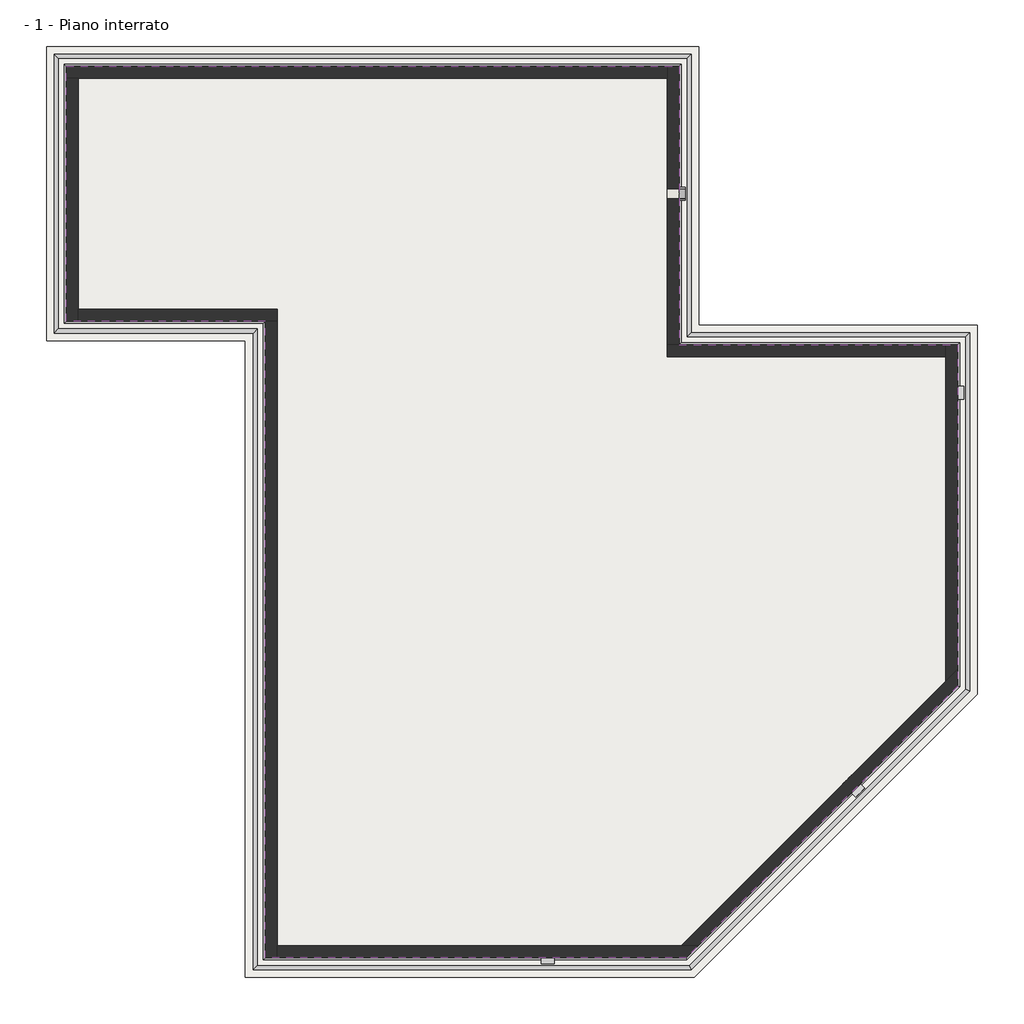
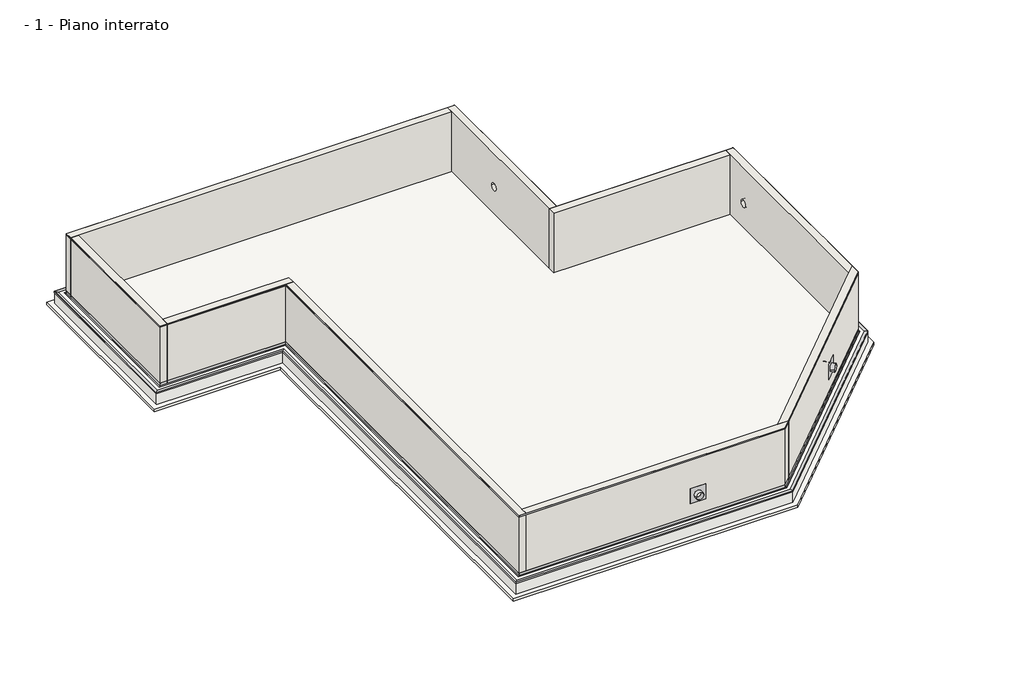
# One storey: 9 walls, 7 proxies, 2 slabs.
"""IFC4 building model written with IfcOpenShell, lengths in millimetres."""

from ifc_helpers import new_model, si_unit, frame, origin, place, context, project, spatial, polyline, circle_curve, outline, extrude, faceted_brep, transform, mapped, element, save
from ifc_brep_helpers import plane_surface, revolved_surface, advanced_brep
from components import generic_models_91e2fdae

model = new_model("IFC4")

# Units and contexts
model_context = context("Model", 3, world=origin())
ifc_project = project(units=[si_unit("LENGTHUNIT", "METRE", prefix="MILLI")], contexts=[model_context])

# Site, building, storey
site = spatial("IfcSite", under=ifc_project)
building = spatial("IfcBuilding", under=site)
storey = spatial("IfcBuildingStorey", under=building, Name="- 1 - Piano interrato", Elevation=-2500.0)

# Proxies
placement = place(None, origin())
element("IfcBuildingElementProxy", 1, Name="AMPHIBIA CORNER 270° VOLTECO", ObjectType="AMPHIBIA CORNER 270° VOLTECO", at=placement, inside=storey, context=model_context, shape_type="Brep", body=[
    faceted_brep([(9823.1031791, -5668.21191, -2499.0), (9773.1031791, -5647.5012319, -2499.0), (9773.1031791, -5647.5012319, -2399.0), (9772.1031791, -5647.0870183, -2399.0), (9772.1031791, -5647.0870183, -2500.0), (9823.1031791, -5668.21191, -2500.0), (9823.1031791, 2979.648913, -2499.0), (9823.1031791, 2979.648913, -2500.0), (9772.1031791, 2928.648913, -2500.0), (9772.1031791, 2928.648913, -2399.0), (9773.1031791, 2929.648913, -2399.0), (9773.1031791, 2929.648913, -2499.0)], [[[0, 1, 2, 3, 4, 5]], [[6, 7, 8, 9, 10, 11]], [[1, 0, 6, 11]], [[2, 1, 11, 10]], [[3, 2, 10, 9]], [[4, 3, 9, 8]], [[5, 4, 8, 7]], [[0, 5, 7, 6]]]),
    faceted_brep([(9823.1031791, 2979.648913, -2499.0), (9773.1031791, 2929.648913, -2499.0), (9773.1031791, 2929.648913, -2399.0), (9772.1031791, 2928.648913, -2399.0), (9772.1031791, 2928.648913, -2500.0), (9823.1031791, 2979.648913, -2500.0), (2823.1031791, 2979.648913, -2499.0), (2823.1031791, 2979.648913, -2500.0), (2772.1031791, 2928.648913, -2500.0), (2772.1031791, 2928.648913, -2399.0), (2773.1031791, 2929.648913, -2399.0), (2773.1031791, 2929.648913, -2499.0)], [[[0, 1, 2, 3, 4, 5]], [[6, 7, 8, 9, 10, 11]], [[1, 0, 6, 11]], [[2, 1, 11, 10]], [[3, 2, 10, 9]], [[4, 3, 9, 8]], [[5, 4, 8, 7]], [[0, 5, 7, 6]]]),
    faceted_brep([(2823.1031791, 2979.648913, -2499.0), (2773.1031791, 2929.648913, -2499.0), (2773.1031791, 2929.648913, -2399.0), (2772.1031791, 2928.648913, -2399.0), (2772.1031791, 2928.648913, -2500.0), (2823.1031791, 2979.648913, -2500.0), (2823.1031791, 9979.648913, -2499.0), (2823.1031791, 9979.648913, -2500.0), (2772.1031791, 9928.648913, -2500.0), (2772.1031791, 9928.648913, -2399.0), (2773.1031791, 9929.648913, -2399.0), (2773.1031791, 9929.648913, -2499.0)], [[[0, 1, 2, 3, 4, 5]], [[6, 7, 8, 9, 10, 11]], [[1, 0, 6, 11]], [[2, 1, 11, 10]], [[3, 2, 10, 9]], [[4, 3, 9, 8]], [[5, 4, 8, 7]], [[0, 5, 7, 6]]]),
    faceted_brep([(2823.1031791, 9979.648913, -2499.0), (2773.1031791, 9929.648913, -2499.0), (2773.1031791, 9929.648913, -2399.0), (2772.1031791, 9928.648913, -2399.0), (2772.1031791, 9928.648913, -2500.0), (2823.1031791, 9979.648913, -2500.0), (-12678.8968209, 9979.648913, -2499.0), (-12678.8968209, 9979.648913, -2500.0), (-12627.8968209, 9928.648913, -2500.0), (-12627.8968209, 9928.648913, -2399.0), (-12628.8968209, 9929.648913, -2399.0), (-12628.8968209, 9929.648913, -2499.0)], [[[0, 1, 2, 3, 4, 5]], [[6, 7, 8, 9, 10, 11]], [[1, 0, 6, 11]], [[2, 1, 11, 10]], [[3, 2, 10, 9]], [[4, 3, 9, 8]], [[5, 4, 8, 7]], [[0, 5, 7, 6]]]),
    faceted_brep([(-12678.8968209, 9979.648913, -2499.0), (-12628.8968209, 9929.648913, -2499.0), (-12628.8968209, 9929.648913, -2399.0), (-12627.8968209, 9928.648913, -2399.0), (-12627.8968209, 9928.648913, -2500.0), (-12678.8968209, 9979.648913, -2500.0), (-12678.8968209, 3477.648913, -2499.0), (-12678.8968209, 3477.648913, -2500.0), (-12627.8968209, 3528.648913, -2500.0), (-12627.8968209, 3528.648913, -2399.0), (-12628.8968209, 3527.648913, -2399.0), (-12628.8968209, 3527.648913, -2499.0)], [[[0, 1, 2, 3, 4, 5]], [[6, 7, 8, 9, 10, 11]], [[1, 0, 6, 11]], [[2, 1, 11, 10]], [[3, 2, 10, 9]], [[4, 3, 9, 8]], [[5, 4, 8, 7]], [[0, 5, 7, 6]]]),
    faceted_brep([(-12678.8968209, 3477.648913, -2499.0), (-12628.8968209, 3527.648913, -2499.0), (-12628.8968209, 3527.648913, -2399.0), (-12627.8968209, 3528.648913, -2399.0), (-12627.8968209, 3528.648913, -2500.0), (-12678.8968209, 3477.648913, -2500.0), (-7678.8968209, 3477.648913, -2499.0), (-7678.8968209, 3477.648913, -2500.0), (-7627.8968209, 3528.648913, -2500.0), (-7627.8968209, 3528.648913, -2399.0), (-7628.8968209, 3527.648913, -2399.0), (-7628.8968209, 3527.648913, -2499.0)], [[[0, 1, 2, 3, 4, 5]], [[6, 7, 8, 9, 10, 11]], [[1, 0, 6, 11]], [[2, 1, 11, 10]], [[3, 2, 10, 9]], [[4, 3, 9, 8]], [[5, 4, 8, 7]], [[0, 5, 7, 6]]]),
    faceted_brep([(-7678.8968209, 3477.648913, -2499.0), (-7628.8968209, 3527.648913, -2499.0), (-7628.8968209, 3527.648913, -2399.0), (-7627.8968209, 3528.648913, -2399.0), (-7627.8968209, 3528.648913, -2500.0), (-7678.8968209, 3477.648913, -2500.0), (-7678.8968209, -12522.351087, -2499.0), (-7678.8968209, -12522.351087, -2500.0), (-7627.8968209, -12471.351087, -2500.0), (-7627.8968209, -12471.351087, -2399.0), (-7628.8968209, -12472.351087, -2399.0), (-7628.8968209, -12472.351087, -2499.0)], [[[0, 1, 2, 3, 4, 5]], [[6, 7, 8, 9, 10, 11]], [[1, 0, 6, 11]], [[2, 1, 11, 10]], [[3, 2, 10, 9]], [[4, 3, 9, 8]], [[5, 4, 8, 7]], [[0, 5, 7, 6]]]),
    faceted_brep([(-7678.8968209, -12522.351087, -2499.0), (-7628.8968209, -12472.351087, -2499.0), (-7628.8968209, -12472.351087, -2399.0), (-7627.8968209, -12471.351087, -2399.0), (-7627.8968209, -12471.351087, -2500.0), (-7678.8968209, -12522.351087, -2500.0), (2968.9640021, -12522.351087, -2499.0), (2968.9640021, -12522.351087, -2500.0), (2947.8391104, -12471.351087, -2500.0), (2947.8391104, -12471.351087, -2399.0), (2948.253324, -12472.351087, -2399.0), (2948.253324, -12472.351087, -2499.0)], [[[0, 1, 2, 3, 4, 5]], [[6, 7, 8, 9, 10, 11]], [[1, 0, 6, 11]], [[2, 1, 11, 10]], [[3, 2, 10, 9]], [[4, 3, 9, 8]], [[5, 4, 8, 7]], [[0, 5, 7, 6]]]),
    faceted_brep([(2968.9640021, -12522.351087, -2499.0), (2948.253324, -12472.351087, -2499.0), (2948.253324, -12472.351087, -2399.0), (2947.8391104, -12471.351087, -2399.0), (2947.8391104, -12471.351087, -2500.0), (2968.9640021, -12522.351087, -2500.0), (9823.1031791, -5668.21191, -2499.0), (9823.1031791, -5668.21191, -2500.0), (9772.1031791, -5647.0870183, -2500.0), (9772.1031791, -5647.0870183, -2399.0), (9773.1031791, -5647.5012319, -2399.0), (9773.1031791, -5647.5012319, -2499.0)], [[[0, 1, 2, 3, 4, 5]], [[6, 7, 8, 9, 10, 11]], [[1, 0, 6, 11]], [[2, 1, 11, 10]], [[3, 2, 10, 9]], [[4, 3, 9, 8]], [[5, 4, 8, 7]], [[0, 5, 7, 6]]]),
])
element("IfcBuildingElementProxy", 2, Name="AMPHIBIA CORNER 90° VOLTECO", ObjectType="AMPHIBIA CORNER 90° VOLTECO", at=placement, inside=storey, context=model_context, shape_type="Brep", body=[
    faceted_brep([(-12928.8968209, 3227.648913, -2550.0), (-12927.8968209, 3228.648913, -2550.0), (-7927.8968209, 3228.648913, -2550.0), (-7928.8968209, 3227.648913, -2550.0), (-12928.8968209, 3227.648913, -2499.0), (-7928.8968209, 3227.648913, -2499.0), (-12827.8968209, 3328.648913, -2499.0), (-7827.8968209, 3328.648913, -2499.0), (-12827.8968209, 3328.648913, -2500.0), (-7827.8968209, 3328.648913, -2500.0), (-12927.8968209, 3228.648913, -2500.0), (-7927.8968209, 3228.648913, -2500.0), (-7928.8968209, -12772.351087, -2550.0), (-7927.8968209, -12771.351087, -2550.0), (3072.1031791, -12771.351087, -2550.0), (3072.5173927, -12772.351087, -2550.0), (-7928.8968209, -12772.351087, -2499.0), (3072.5173927, -12772.351087, -2499.0), (-7827.8968209, -12671.351087, -2499.0), (3030.6818229, -12671.351087, -2499.0), (-7827.8968209, -12671.351087, -2500.0), (3030.6818229, -12671.351087, -2500.0), (-7927.8968209, -12771.351087, -2500.0), (3072.1031791, -12771.351087, -2500.0), (10072.1031791, -5771.351087, -2550.0), (10073.1031791, -5771.7653006, -2550.0), (10073.1031791, -5771.7653006, -2499.0), (9972.1031791, -5729.9297308, -2499.0), (9972.1031791, -5729.9297308, -2500.0), (10072.1031791, -5771.351087, -2500.0), (10072.1031791, 3228.648913, -2550.0), (10073.1031791, 3229.648913, -2550.0), (10073.1031791, 3229.648913, -2499.0), (9972.1031791, 3128.648913, -2499.0), (9972.1031791, 3128.648913, -2500.0), (10072.1031791, 3228.648913, -2500.0), (3072.1031791, 3228.648913, -2550.0), (3073.1031791, 3229.648913, -2550.0), (3073.1031791, 3229.648913, -2499.0), (2972.1031791, 3128.648913, -2499.0), (2972.1031791, 3128.648913, -2500.0), (3072.1031791, 3228.648913, -2500.0), (3072.1031791, 10228.648913, -2550.0), (3073.1031791, 10229.648913, -2550.0), (3073.1031791, 10229.648913, -2499.0), (2972.1031791, 10128.648913, -2499.0), (2972.1031791, 10128.648913, -2500.0), (3072.1031791, 10228.648913, -2500.0), (-12927.8968209, 10228.648913, -2550.0), (-12928.8968209, 10229.648913, -2550.0), (-12928.8968209, 10229.648913, -2499.0), (-12827.8968209, 10128.648913, -2499.0), (-12827.8968209, 10128.648913, -2500.0), (-12927.8968209, 10228.648913, -2500.0)], [[[0, 1, 2, 3]], [[4, 0, 3, 5]], [[6, 4, 5, 7]], [[8, 6, 7, 9]], [[10, 8, 9, 11]], [[1, 10, 11, 2]], [[12, 13, 14, 15]], [[16, 12, 15, 17]], [[18, 16, 17, 19]], [[20, 18, 19, 21]], [[22, 20, 21, 23]], [[13, 22, 23, 14]], [[15, 14, 24, 25]], [[17, 15, 25, 26]], [[19, 17, 26, 27]], [[21, 19, 27, 28]], [[23, 21, 28, 29]], [[14, 23, 29, 24]], [[25, 24, 30, 31]], [[26, 25, 31, 32]], [[27, 26, 32, 33]], [[28, 27, 33, 34]], [[29, 28, 34, 35]], [[24, 29, 35, 30]], [[31, 30, 36, 37]], [[32, 31, 37, 38]], [[33, 32, 38, 39]], [[34, 33, 39, 40]], [[35, 34, 40, 41]], [[30, 35, 41, 36]], [[37, 36, 42, 43]], [[38, 37, 43, 44]], [[39, 38, 44, 45]], [[40, 39, 45, 46]], [[41, 40, 46, 47]], [[36, 41, 47, 42]], [[43, 42, 48, 49]], [[44, 43, 49, 50]], [[45, 44, 50, 51]], [[46, 45, 51, 52]], [[47, 46, 52, 53]], [[42, 47, 53, 48]], [[1, 0, 49, 48]], [[0, 4, 50, 49]], [[4, 6, 51, 50]], [[6, 8, 52, 51]], [[8, 10, 53, 52]], [[10, 1, 48, 53]], [[13, 12, 3, 2]], [[12, 16, 5, 3]], [[16, 18, 7, 5]], [[18, 20, 9, 7]], [[20, 22, 11, 9]], [[22, 13, 2, 11]]]),
])
element("IfcBuildingElementProxy", 3, Name="AMPHIBIA VOLTECO PRESSURE LINE", ObjectType="AMPHIBIA VOLTECO PRESSURE LINE", at=placement, inside=storey, context=model_context, shape_type="SweptSolid", body=[
    extrude(outline(polyline([(-12628.8968209, 9929.648913), (-12627.8968209, 9928.648913), (-12627.8968209, 3528.648913), (-12628.8968209, 3527.648913), (-12628.8968209, 9929.648913)])), frame((0.0, 0.0, -50.0), z_axis=(0.0, 0.0, 1.0), x_axis=(1.0, 0.0, 0.0)), (0.0, 0.0, 1.0), 50.0),
    extrude(outline(polyline([(-12628.8968209, 3527.648913), (-12627.8968209, 3528.648913), (-7627.8968209, 3528.648913), (-7628.8968209, 3527.648913), (-12628.8968209, 3527.648913)])), frame((0.0, 0.0, -50.0), z_axis=(0.0, 0.0, 1.0), x_axis=(1.0, 0.0, 0.0)), (0.0, 0.0, 1.0), 50.0),
    extrude(outline(polyline([(-7628.8968209, 3527.648913), (-7627.8968209, 3528.648913), (-7627.8968209, -12471.351087), (-7628.8968209, -12472.351087), (-7628.8968209, 3527.648913)])), frame((0.0, 0.0, -50.0), z_axis=(0.0, 0.0, 1.0), x_axis=(1.0, 0.0, 0.0)), (0.0, 0.0, 1.0), 50.0),
    extrude(outline(polyline([(-7628.8968209, -12472.351087), (-7627.8968209, -12471.351087), (2947.8391104, -12471.351087), (2948.253324, -12472.351087), (-7628.8968209, -12472.351087)])), frame((0.0, 0.0, -50.0), z_axis=(0.0, 0.0, 1.0), x_axis=(1.0, 0.0, 0.0)), (0.0, 0.0, 1.0), 50.0),
    extrude(outline(polyline([(2948.253324, -12472.351087), (2947.8391104, -12471.351087), (9772.1031791, -5647.0870183), (9773.1031791, -5647.5012319), (2948.253324, -12472.351087)])), frame((0.0, 0.0, -50.0), z_axis=(0.0, 0.0, 1.0), x_axis=(1.0, 0.0, 0.0)), (0.0, 0.0, 1.0), 50.0),
    extrude(outline(polyline([(9773.1031791, -5647.5012319), (9772.1031791, -5647.0870183), (9772.1031791, 2928.648913), (9773.1031791, 2929.648913), (9773.1031791, -5647.5012319)])), frame((0.0, 0.0, -50.0), z_axis=(0.0, 0.0, 1.0), x_axis=(1.0, 0.0, 0.0)), (0.0, 0.0, 1.0), 50.0),
    extrude(outline(polyline([(9773.1031791, 2929.648913), (9772.1031791, 2928.648913), (2772.1031791, 2928.648913), (2773.1031791, 2929.648913), (9773.1031791, 2929.648913)])), frame((0.0, 0.0, -50.0), z_axis=(0.0, 0.0, 1.0), x_axis=(1.0, 0.0, 0.0)), (0.0, 0.0, 1.0), 50.0),
    extrude(outline(polyline([(2773.1031791, 2929.648913), (2772.1031791, 2928.648913), (2772.1031791, 9928.648913), (2773.1031791, 9929.648913), (2773.1031791, 2929.648913)])), frame((0.0, 0.0, -50.0), z_axis=(0.0, 0.0, 1.0), x_axis=(1.0, 0.0, 0.0)), (0.0, 0.0, 1.0), 50.0),
    extrude(outline(polyline([(2773.1031791, 9929.648913), (2772.1031791, 9928.648913), (-12627.8968209, 9928.648913), (-12628.8968209, 9929.648913), (2773.1031791, 9929.648913)])), frame((0.0, 0.0, -50.0), z_axis=(0.0, 0.0, 1.0), x_axis=(1.0, 0.0, 0.0)), (0.0, 0.0, 1.0), 50.0),
])
generic_models_shape = generic_models_91e2fdae(model_context)
element("IfcBuildingElementProxy", 4, Name="ITA-VOLTECO Amphibia Tubo : ITA-VOLTECO Amphibia Tubo", ObjectType="ITA-VOLTECO Amphibia Tubo : ITA-VOLTECO Amphibia Tubo", at=placement, inside=storey, context=model_context, shape_type="MappedRepresentation", body=[
    mapped(generic_models_shape, transform((7209.3614793, -8209.8287181, -1538.2392185), x_axis=(0.7071067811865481, 0.707106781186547, 0.0), y_axis=(0.0, 0.0, 1.0000000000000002), z_axis=(0.707106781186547, -0.7071067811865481, 0.0))),
])
element("IfcBuildingElementProxy", 5, Name="ITA-VOLTECO Amphibia Tubo : ITA-VOLTECO Amphibia Tubo", ObjectType="ITA-VOLTECO Amphibia Tubo : ITA-VOLTECO Amphibia Tubo", at=placement, inside=storey, context=model_context, shape_type="MappedRepresentation", body=[
    mapped(generic_models_shape, transform((9772.1031791, 1728.648913, -1496.7086469), x_axis=(0.0, 1.0, 0.0), y_axis=(0.0, 0.0, 1.0), z_axis=(1.0, 0.0, 0.0))),
])
element("IfcBuildingElementProxy", 6, Name="ITA-VOLTECO Amphibia Tubo : ITA-VOLTECO Amphibia Tubo", ObjectType="ITA-VOLTECO Amphibia Tubo : ITA-VOLTECO Amphibia Tubo", at=placement, inside=storey, context=model_context, shape_type="MappedRepresentation", body=[
    mapped(generic_models_shape, transform((2772.1031791, 6728.648913, -1383.5016152), x_axis=(0.0, 1.0, 0.0), y_axis=(0.0, 0.0, 1.0), z_axis=(1.0, 0.0, 0.0))),
])
element("IfcBuildingElementProxy", 7, Name="ITA-VOLTECO Amphibia Tubo : ITA-VOLTECO Amphibia Tubo", ObjectType="ITA-VOLTECO Amphibia Tubo : ITA-VOLTECO Amphibia Tubo", at=placement, inside=storey, context=model_context, shape_type="MappedRepresentation", body=[
    mapped(generic_models_shape, transform((-527.8968209, -12471.351087, -1549.7430028), x_axis=(1.0, 0.0, 0.0), y_axis=(0.0, 0.0, 1.0), z_axis=(0.0, -1.0, 0.0))),
])

# Slabs
element("IfcSlab", 8, ObjectType="Magrone - 10 cm", at=placement, inside=storey, context=model_context, shape_type="SweptSolid", body=[
    extrude(outline(polyline([(3272.1031791, 3428.648913), (10272.1031791, 3428.648913), (10272.1031791, -5854.1937995), (3154.9458916, -12971.351087), (-8127.8968209, -12971.351087), (-8127.8968209, 3028.648913), (-13127.8968209, 3028.648913), (-13127.8968209, 10428.648913), (3272.1031791, 10428.648913), (3272.1031791, 3428.648913)])), frame((0.0, 0.0, -3100.0), z_axis=(0.0, 0.0, 1.0), x_axis=(1.0, 0.0, 0.0)), (0.0, 0.0, 1.0), 100.0),
])
element("IfcSlab", 9, ObjectType="Platea - 50 cm", at=placement, inside=storey, context=model_context, shape_type="Brep", body=[
    faceted_brep([(3072.1031791, 10228.648913, -3000.0), (3072.1031791, 3228.648913, -3000.0), (10072.1031791, 3228.648913, -3000.0), (10072.1031791, -5771.351087, -3000.0), (3072.1031791, -12771.351087, -3000.0), (-7927.8968209, -12771.351087, -3000.0), (-7927.8968209, 3228.648913, -3000.0), (-12927.8968209, 3228.648913, -3000.0), (-12927.8968209, 10228.648913, -3000.0), (3072.1031791, 10228.648913, -2500.0), (-12927.8968209, 10228.648913, -2500.0), (-12927.8968209, 3228.648913, -2500.0), (-7927.8968209, 3228.648913, -2500.0), (-7927.8968209, -12771.351087, -2500.0), (3072.1031791, -12771.351087, -2500.0), (10072.1031791, -5771.351087, -2500.0), (10072.1031791, 3228.648913, -2500.0), (3072.1031791, 3228.648913, -2500.0), (3072.1031791, 10228.648913, -2550.0), (3072.1031791, 3228.648913, -2550.0), (10072.1031791, 3228.648913, -2550.0), (10072.1031791, -5771.351087, -2550.0), (3072.1031791, -12771.351087, -2550.0), (-7927.8968209, -12771.351087, -2550.0), (-7927.8968209, 3228.648913, -2550.0), (-12927.8968209, 3228.648913, -2550.0), (-12927.8968209, 10228.648913, -2550.0)], [[[0, 1, 2, 3, 4, 5, 6, 7, 8]], [[9, 10, 11, 12, 13, 14, 15, 16, 17]], [[1, 0, 18, 9, 17, 19]], [[2, 1, 19, 17, 16, 20]], [[3, 2, 20, 16, 15, 21]], [[4, 3, 21, 15, 14, 22]], [[5, 4, 22, 14, 13, 23]], [[6, 5, 23, 13, 12, 24]], [[7, 6, 24, 12, 11, 25]], [[8, 7, 25, 11, 10, 26]], [[0, 8, 26, 10, 9, 18]]]),
])

# Walls
element("IfcWall", 10, ObjectType="Parete in c.a.uori terra - 30 cm", at=placement, inside=storey, context=model_context, shape_type="Brep", body=[
    faceted_brep([(2472.1031791, 9928.648913, -2500.0), (-12627.8968209, 9928.648913, -2500.0), (-12627.8968209, 9928.648913, -2399.0), (-12627.8968209, 9928.648913, -50.0), (-12627.8968209, 9928.648913, 0.0), (2472.1031791, 9928.648913, 0.0), (2472.1031791, 9928.648913, -50.0), (2472.1031791, 9928.648913, -2399.0), (-12627.8968209, 9628.648913, -2500.0), (-12327.8968209, 9628.648913, -2500.0), (2472.1031791, 9628.648913, -2500.0), (2472.1031791, 9628.648913, 0.0), (-12327.8968209, 9628.648913, 0.0), (-12627.8968209, 9628.648913, 0.0), (-12627.8968209, 9628.648913, -50.0), (-12627.8968209, 9628.648913, -2399.0)], [[[0, 1, 2, 3, 4, 5, 6, 7]], [[8, 9, 10, 11, 12, 13, 14, 15]], [[1, 0, 10, 9, 8]], [[5, 4, 13, 12, 11]], [[1, 8, 15, 14, 13, 4, 3, 2]], [[5, 11, 10, 0, 7, 6]]]),
])
element("IfcWall", 11, ObjectType="Parete in c.a.uori terra - 30 cm", at=placement, inside=storey, context=model_context, shape_type="Brep", body=[
    faceted_brep([(-12627.8968209, 9628.648913, -2500.0), (-12627.8968209, 3528.648913, -2500.0), (-12627.8968209, 3528.648913, -2399.0), (-12627.8968209, 3528.648913, -50.0), (-12627.8968209, 3528.648913, 0.0), (-12627.8968209, 9628.648913, 0.0), (-12627.8968209, 9628.648913, -50.0), (-12627.8968209, 9628.648913, -2399.0), (-12327.8968209, 3528.648913, -2500.0), (-12327.8968209, 3828.648913, -2500.0), (-12327.8968209, 9628.648913, -2500.0), (-12327.8968209, 9628.648913, 0.0), (-12327.8968209, 3828.648913, 0.0), (-12327.8968209, 3528.648913, 0.0), (-12327.8968209, 3528.648913, -50.0), (-12327.8968209, 3528.648913, -2399.0)], [[[0, 1, 2, 3, 4, 5, 6, 7]], [[8, 9, 10, 11, 12, 13, 14, 15]], [[1, 0, 10, 9, 8]], [[5, 4, 13, 12, 11]], [[1, 8, 15, 14, 13, 4, 3, 2]], [[5, 11, 10, 0, 7, 6]]]),
])
element("IfcWall", 12, ObjectType="Parete in c.a.uori terra - 30 cm", at=placement, inside=storey, context=model_context, shape_type="Brep", body=[
    faceted_brep([(-7327.8968209, 3528.648913, 0.0), (-7627.8968209, 3528.648913, 0.0), (-12327.8968209, 3528.648913, 0.0), (-12327.8968209, 3528.648913, -300.0), (-12327.8968209, 3528.648913, -350.0), (-12327.8968209, 3528.648913, -2399.0), (-12327.8968209, 3528.648913, -2500.0), (-7627.8968209, 3528.648913, -2500.0), (-7327.8968209, 3528.648913, -2500.0), (-7327.8968209, 3828.648913, -2500.0), (-12327.8968209, 3828.648913, -2500.0), (-12327.8968209, 3828.648913, 0.0), (-7327.8968209, 3828.648913, 0.0)], [[[0, 1, 2, 3, 4, 5, 6, 7, 8]], [[9, 10, 11, 12]], [[10, 9, 8, 7, 6]], [[2, 1, 0, 12, 11]], [[0, 8, 9, 12]], [[2, 11, 10, 6, 5, 4, 3]]]),
])
element("IfcWall", 13, ObjectType="Parete in c.a.uori terra - 30 cm", at=placement, inside=storey, context=model_context, shape_type="Brep", body=[
    faceted_brep([(-7627.8968209, 3528.648913, -2500.0), (-7627.8968209, -12471.351087, -2500.0), (-7627.8968209, -12471.351087, -2399.0), (-7627.8968209, -12471.351087, -50.0), (-7627.8968209, -12471.351087, 0.0), (-7627.8968209, 3528.648913, 0.0), (-7627.8968209, 3528.648913, -50.0), (-7627.8968209, 3528.648913, -2399.0), (-7327.8968209, -12471.351087, -2500.0), (-7327.8968209, -12171.351087, -2500.0), (-7327.8968209, 3528.648913, -2500.0), (-7327.8968209, 3528.648913, 0.0), (-7327.8968209, -12171.351087, 0.0), (-7327.8968209, -12471.351087, 0.0), (-7327.8968209, -12471.351087, -50.0), (-7327.8968209, -12471.351087, -2399.0)], [[[0, 1, 2, 3, 4, 5, 6, 7]], [[8, 9, 10, 11, 12, 13, 14, 15]], [[1, 0, 10, 9, 8]], [[5, 4, 13, 12, 11]], [[1, 8, 15, 14, 13, 4, 3, 2]], [[5, 11, 10, 0, 7, 6]]]),
])
element("IfcWall", 14, ObjectType="Parete in c.a.uori terra - 30 cm", at=placement, inside=storey, context=model_context, shape_type="AdvancedBrep", body=[
    advanced_brep(
    [(-7327.8968209, -12471.351087, -2500.0), (2947.8391104, -12471.351087, -2500.0), (2947.8391104, -12471.351087, -2399.0), (2947.8391104, -12471.351087, -50.0), (2947.8391104, -12471.351087, 0.0), (-7327.8968209, -12471.351087, 0.0), (-7327.8968209, -12471.351087, -50.0), (-7327.8968209, -12471.351087, -2399.0), (-377.8968209, -12471.351087, -1549.7430028), (-677.8968209, -12471.351087, -1549.7430028), (3247.8391104, -12171.351087, -2500.0), (2823.5750417, -12171.351087, -2500.0), (-7327.8968209, -12171.351087, -2500.0), (-7327.8968209, -12171.351087, 0.0), (2823.5750417, -12171.351087, 0.0), (3247.8391104, -12171.351087, 0.0), (3247.8391104, -12171.351087, -50.0), (3247.8391104, -12171.351087, -2399.0), (-677.8968209, -12171.351087, -1549.7430028), (-377.8968209, -12171.351087, -1549.7430028)],
    [
        (0, 1),
        (1, 2),
        (2, 3),
        (3, 4),
        (4, 5),
        (5, 6),
        (6, 7),
        (7, 0),
        (8, 9, circle_curve(frame((-527.8968209, -12471.351087, -1549.7430028), z_axis=(0.0, 1.0, 0.0), x_axis=(1.0, 0.0, 0.0)), 150.0)),
        (9, 8, circle_curve(frame((-527.8968209, -12471.351087, -1549.7430028), z_axis=(0.0, 1.0, 0.0), x_axis=(1.0, 0.0, 0.0)), 150.0)),
        (10, 11),
        (11, 12),
        (12, 13),
        (13, 14),
        (14, 15),
        (15, 16),
        (16, 17),
        (17, 10),
        (18, 19, circle_curve(frame((-527.8968209, -12171.351087, -1549.7430028), z_axis=(0.0, -1.0, 0.0), x_axis=(1.0, 0.0, 0.0)), 150.0)),
        (19, 18, circle_curve(frame((-527.8968209, -12171.351087, -1549.7430028), z_axis=(0.0, -1.0, 0.0), x_axis=(1.0, 0.0, 0.0)), 150.0)),
        (0, 12),
        (10, 1),
        (4, 15),
        (13, 5),
        (18, 9),
        (8, 19),
    ],
    [
        plane_surface(frame((-7927.8968209, -12471.351087, -2500.0), z_axis=(0.0, -1.0, 0.0), x_axis=(1.0, 0.0, 0.0))),
        plane_surface(frame((-7927.8968209, -12171.351087, -2500.0), z_axis=(0.0, 1.0, 0.0), x_axis=(-1.0, 0.0, 0.0))),
        plane_surface(frame((-7477.8968209, -12471.351087, -2500.0), z_axis=(0.0, 0.0, -1.0), x_axis=(0.0, 1.0, 0.0))),
        plane_surface(frame((2885.707076, -12471.351087, 0.0), z_axis=(0.0, 0.0, 1.0), x_axis=(0.0, 1.0, 0.0))),
        plane_surface(frame((2859.9711448, -12559.2190527, -2500.0), z_axis=(0.707106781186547, -0.7071067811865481, 0.0), x_axis=(0.7071067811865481, 0.707106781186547, 0.0))),
        plane_surface(frame((-7327.8968209, 3228.648913, -2500.0), z_axis=(-1.0, 0.0, 0.0), x_axis=(0.0, 1.0, 0.0))),
        revolved_surface(polyline([(-377.89682089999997, -12471.351087, -1549.7430028), (-377.89682089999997, -12171.351087, -1549.7430028)]), (-527.8968209, -9878.9873989, -1549.7430028), (0.0, -1.0, 0.0)),
    ],
    [
        (0, [[1, 2, 3, 4, 5, 6, 7, 8], [9, 10]]),
        (1, [[11, 12, 13, 14, 15, 16, 17, 18], [19, 20]]),
        (2, [[-1, 21, -12, -11, 22]]),
        (3, [[-5, 23, -15, -14, 24]]),
        (4, [[-22, -18, -17, -16, -23, -4, -3, -2]]),
        (5, [[-24, -13, -21, -8, -7, -6]]),
        (6, [[25, -9, 26, -19]]),
        (6, [[-25, -20, -26, -10]]),
    ],
),
])
element("IfcWall", 15, ObjectType="Parete in c.a.uori terra - 30 cm", at=placement, inside=storey, context=model_context, shape_type="AdvancedBrep", body=[
    advanced_brep(
    [(3247.8391104, -12171.351087, -2500.0), (9772.1031791, -5647.0870183, -2500.0), (9772.1031791, -5647.0870183, -2399.0), (9772.1031791, -5647.0870183, -50.0), (9772.1031791, -5647.0870183, 0.0), (3247.8391104, -12171.351087, 0.0), (3247.8391104, -12171.351087, -50.0), (3247.8391104, -12171.351087, -2399.0), (7315.4274965, -8103.762701, -1538.2392185), (7103.2954621, -8315.8947353, -1538.2392185), (9772.1031791, -5222.8229496, -2500.0), (9472.1031791, -5522.8229496, -2500.0), (2823.5750417, -12171.351087, -2500.0), (2823.5750417, -12171.351087, 0.0), (9472.1031791, -5522.8229496, 0.0), (9772.1031791, -5222.8229496, 0.0), (9772.1031791, -5222.8229496, -50.0), (9772.1031791, -5222.8229496, -2399.0), (6891.1634278, -8103.762701, -1538.2392185), (7103.2954621, -7891.6306666, -1538.2392185)],
    [
        (0, 1),
        (1, 2),
        (2, 3),
        (3, 4),
        (4, 5),
        (5, 6),
        (6, 7),
        (7, 0),
        (8, 9, circle_curve(frame((7209.3614793, -8209.8287181, -1538.2392185), z_axis=(-0.707106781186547, 0.7071067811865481, 0.0), x_axis=(0.7071067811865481, 0.707106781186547, 0.0)), 150.0)),
        (9, 8, circle_curve(frame((7209.3614793, -8209.8287181, -1538.2392185), z_axis=(-0.707106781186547, 0.7071067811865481, 0.0), x_axis=(0.7071067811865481, 0.707106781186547, 0.0)), 150.0)),
        (10, 11),
        (11, 12),
        (12, 13),
        (13, 14),
        (14, 15),
        (15, 16),
        (16, 17),
        (17, 10),
        (18, 19, circle_curve(frame((6997.229445, -7997.6966838, -1538.2392185), z_axis=(0.707106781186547, -0.7071067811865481, 0.0), x_axis=(0.7071067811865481, 0.707106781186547, 0.0)), 150.0)),
        (19, 18, circle_curve(frame((6997.229445, -7997.6966838, -1538.2392185), z_axis=(0.707106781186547, -0.7071067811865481, 0.0), x_axis=(0.7071067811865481, 0.707106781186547, 0.0)), 150.0)),
        (0, 12),
        (10, 1),
        (4, 15),
        (13, 5),
        (18, 9),
        (8, 19),
    ],
    [
        plane_surface(frame((2859.9711448, -12559.2190527, -2500.0), z_axis=(0.707106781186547, -0.7071067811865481, 0.0), x_axis=(0.7071067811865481, 0.707106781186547, 0.0))),
        plane_surface(frame((2647.8391104, -12347.0870183, -2500.0), z_axis=(-0.707106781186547, 0.7071067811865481, 0.0), x_axis=(-0.7071067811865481, -0.707106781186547, 0.0))),
        plane_surface(frame((2991.7730932, -12427.4171042, -2500.0), z_axis=(0.0, 0.0, -1.0), x_axis=(-0.7071067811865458, 0.7071067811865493, 0.0))),
        plane_surface(frame((9728.1691963, -5691.0210012, 0.0), z_axis=(0.0, 0.0, 1.0), x_axis=(-0.7071067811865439, 0.7071067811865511, 0.0))),
        plane_surface(frame((9772.1031791, -5771.351087, -2500.0), z_axis=(1.0, 0.0, 0.0), x_axis=(0.0, 1.0, 0.0))),
        plane_surface(frame((-7927.8968209, -12171.351087, -2500.0), z_axis=(0.0, -1.0, 0.0), x_axis=(-1.0, 0.0, 0.0))),
        revolved_surface(polyline([(7315.42749647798, -8103.76270102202, -1538.2392185), (7103.29546207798, -7891.63066662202, -1538.2392185)]), (5376.2835361, -6376.750775, -1538.2392185), (0.707106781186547, -0.7071067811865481, 0.0)),
    ],
    [
        (0, [[1, 2, 3, 4, 5, 6, 7, 8], [9, 10]]),
        (1, [[11, 12, 13, 14, 15, 16, 17, 18], [19, 20]]),
        (2, [[-1, 21, -12, -11, 22]]),
        (3, [[-5, 23, -15, -14, 24]]),
        (4, [[-22, -18, -17, -16, -23, -4, -3, -2]]),
        (5, [[-24, -13, -21, -8, -7, -6]]),
        (6, [[25, -9, 26, -19]]),
        (6, [[-25, -20, -26, -10]]),
    ],
),
])
element("IfcWall", 16, ObjectType="Parete in c.a.uori terra - 30 cm", at=placement, inside=storey, context=model_context, shape_type="AdvancedBrep", body=[
    advanced_brep(
    [(9772.1031791, -5222.8229496, -2500.0), (9772.1031791, 2928.648913, -2500.0), (9772.1031791, 2928.648913, -2399.0), (9772.1031791, 2928.648913, -50.0), (9772.1031791, 2928.648913, 0.0), (9772.1031791, -5222.8229496, 0.0), (9772.1031791, -5222.8229496, -50.0), (9772.1031791, -5222.8229496, -2399.0), (9772.1031791, 1878.648913, -1496.7086469), (9772.1031791, 1578.648913, -1496.7086469), (9472.1031791, 2928.648913, -2500.0), (9472.1031791, 2628.648913, -2500.0), (9472.1031791, -5522.8229496, -2500.0), (9472.1031791, -5522.8229496, 0.0), (9472.1031791, 2628.648913, 0.0), (9472.1031791, 2928.648913, 0.0), (9472.1031791, 2928.648913, -50.0), (9472.1031791, 2928.648913, -2399.0), (9472.1031791, 1578.648913, -1496.7086469), (9472.1031791, 1878.648913, -1496.7086469)],
    [
        (0, 1),
        (1, 2),
        (2, 3),
        (3, 4),
        (4, 5),
        (5, 6),
        (6, 7),
        (7, 0),
        (8, 9, circle_curve(frame((9772.1031791, 1728.648913, -1496.7086469), z_axis=(-1.0, 0.0, 0.0), x_axis=(0.0, 1.0, 0.0)), 150.0)),
        (9, 8, circle_curve(frame((9772.1031791, 1728.648913, -1496.7086469), z_axis=(-1.0, 0.0, 0.0), x_axis=(0.0, 1.0, 0.0)), 150.0)),
        (10, 11),
        (11, 12),
        (12, 13),
        (13, 14),
        (14, 15),
        (15, 16),
        (16, 17),
        (17, 10),
        (18, 19, circle_curve(frame((9472.1031791, 1728.648913, -1496.7086469), z_axis=(1.0, 0.0, 0.0), x_axis=(0.0, 1.0, 0.0)), 150.0)),
        (19, 18, circle_curve(frame((9472.1031791, 1728.648913, -1496.7086469), z_axis=(1.0, 0.0, 0.0), x_axis=(0.0, 1.0, 0.0)), 150.0)),
        (0, 12),
        (10, 1),
        (4, 15),
        (13, 5),
        (18, 9),
        (8, 19),
    ],
    [
        plane_surface(frame((9772.1031791, -5771.351087, -2500.0), z_axis=(1.0, 0.0, 0.0), x_axis=(0.0, 1.0, 0.0))),
        plane_surface(frame((9472.1031791, -5771.351087, -2500.0), z_axis=(-1.0, 0.0, 0.0), x_axis=(0.0, -1.0, 0.0))),
        plane_surface(frame((9772.1031791, -5584.954984, -2500.0), z_axis=(0.0, 0.0, -1.0), x_axis=(-1.0, 0.0, 0.0))),
        plane_surface(frame((9772.1031791, 2778.648913, 0.0), z_axis=(0.0, 0.0, 1.0), x_axis=(-1.0, 0.0, 0.0))),
        plane_surface(frame((10072.1031791, 2928.648913, -2500.0), z_axis=(0.0, 1.0, 0.0), x_axis=(-1.0, 0.0, 0.0))),
        plane_surface(frame((2647.8391104, -12347.0870183, -2500.0), z_axis=(0.707106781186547, -0.7071067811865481, 0.0), x_axis=(-0.7071067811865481, -0.707106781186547, 0.0))),
        revolved_surface(polyline([(9772.1031791, 1878.648913, -1496.7086469), (9472.1031791, 1878.648913, -1496.7086469)]), (7179.739491, 1728.648913, -1496.7086469), (1.0, 0.0, 0.0)),
    ],
    [
        (0, [[1, 2, 3, 4, 5, 6, 7, 8], [9, 10]]),
        (1, [[11, 12, 13, 14, 15, 16, 17, 18], [19, 20]]),
        (2, [[-1, 21, -12, -11, 22]]),
        (3, [[-5, 23, -15, -14, 24]]),
        (4, [[-22, -18, -17, -16, -23, -4, -3, -2]]),
        (5, [[-24, -13, -21, -8, -7, -6]]),
        (6, [[25, -9, 26, -19]]),
        (6, [[-25, -20, -26, -10]]),
    ],
),
])
element("IfcWall", 17, ObjectType="Parete in c.a.uori terra - 30 cm", at=placement, inside=storey, context=model_context, shape_type="Brep", body=[
    faceted_brep([(2472.1031791, 2928.648913, 0.0), (2772.1031791, 2928.648913, 0.0), (9472.1031791, 2928.648913, 0.0), (9472.1031791, 2928.648913, -300.0), (9472.1031791, 2928.648913, -350.0), (9472.1031791, 2928.648913, -2399.0), (9472.1031791, 2928.648913, -2500.0), (2772.1031791, 2928.648913, -2500.0), (2472.1031791, 2928.648913, -2500.0), (2472.1031791, 2628.648913, -2500.0), (9472.1031791, 2628.648913, -2500.0), (9472.1031791, 2628.648913, 0.0), (2472.1031791, 2628.648913, 0.0)], [[[0, 1, 2, 3, 4, 5, 6, 7, 8]], [[9, 10, 11, 12]], [[10, 9, 8, 7, 6]], [[2, 1, 0, 12, 11]], [[0, 8, 9, 12]], [[2, 11, 10, 6, 5, 4, 3]]]),
])
element("IfcWall", 18, ObjectType="Parete in c.a.uori terra - 30 cm", at=placement, inside=storey, context=model_context, shape_type="AdvancedBrep", body=[
    advanced_brep(
    [(2772.1031791, 2928.648913, -2500.0), (2772.1031791, 9928.648913, -2500.0), (2772.1031791, 9928.648913, -2399.0), (2772.1031791, 9928.648913, -50.0), (2772.1031791, 9928.648913, 0.0), (2772.1031791, 2928.648913, 0.0), (2772.1031791, 2928.648913, -50.0), (2772.1031791, 2928.648913, -2399.0), (2772.1031791, 6878.648913, -1383.5016152), (2772.1031791, 6578.648913, -1383.5016152), (2472.1031791, 9928.648913, -2500.0), (2472.1031791, 9628.648913, -2500.0), (2472.1031791, 2928.648913, -2500.0), (2472.1031791, 2928.648913, 0.0), (2472.1031791, 9628.648913, 0.0), (2472.1031791, 9928.648913, 0.0), (2472.1031791, 9928.648913, -50.0), (2472.1031791, 9928.648913, -2399.0), (2472.1031791, 6578.648913, -1383.5016152), (2472.1031791, 6878.648913, -1383.5016152)],
    [
        (0, 1),
        (1, 2),
        (2, 3),
        (3, 4),
        (4, 5),
        (5, 6),
        (6, 7),
        (7, 0),
        (8, 9, circle_curve(frame((2772.1031791, 6728.648913, -1383.5016152), z_axis=(-1.0, 0.0, 0.0), x_axis=(0.0, 1.0, 0.0)), 150.0)),
        (9, 8, circle_curve(frame((2772.1031791, 6728.648913, -1383.5016152), z_axis=(-1.0, 0.0, 0.0), x_axis=(0.0, 1.0, 0.0)), 150.0)),
        (10, 11),
        (11, 12),
        (12, 13),
        (13, 14),
        (14, 15),
        (15, 16),
        (16, 17),
        (17, 10),
        (18, 19, circle_curve(frame((2472.1031791, 6728.648913, -1383.5016152), z_axis=(1.0, 0.0, 0.0), x_axis=(0.0, 1.0, 0.0)), 150.0)),
        (19, 18, circle_curve(frame((2472.1031791, 6728.648913, -1383.5016152), z_axis=(1.0, 0.0, 0.0), x_axis=(0.0, 1.0, 0.0)), 150.0)),
        (0, 12),
        (10, 1),
        (4, 15),
        (13, 5),
        (18, 9),
        (8, 19),
    ],
    [
        plane_surface(frame((2772.1031791, 3228.648913, -2500.0), z_axis=(1.0, 0.0, 0.0), x_axis=(0.0, 1.0, 0.0))),
        plane_surface(frame((2472.1031791, 3228.648913, -2500.0), z_axis=(-1.0, 0.0, 0.0), x_axis=(0.0, -1.0, 0.0))),
        plane_surface(frame((2772.1031791, 2778.648913, -2500.0), z_axis=(0.0, 0.0, -1.0), x_axis=(-1.0, 0.0, 0.0))),
        plane_surface(frame((2772.1031791, 9778.648913, 0.0), z_axis=(0.0, 0.0, 1.0), x_axis=(-1.0, 0.0, 0.0))),
        plane_surface(frame((3072.1031791, 9928.648913, -2500.0), z_axis=(0.0, 1.0, 0.0), x_axis=(-1.0, 0.0, 0.0))),
        plane_surface(frame((10072.1031791, 2928.648913, -2500.0), z_axis=(0.0, -1.0, 0.0), x_axis=(-1.0, 0.0, 0.0))),
        revolved_surface(polyline([(2772.1031791, 6878.648913, -1383.5016152), (2472.1031791, 6878.648913, -1383.5016152)]), (179.739491, 6728.648913, -1383.5016152), (1.0, 0.0, 0.0)),
    ],
    [
        (0, [[1, 2, 3, 4, 5, 6, 7, 8], [9, 10]]),
        (1, [[11, 12, 13, 14, 15, 16, 17, 18], [19, 20]]),
        (2, [[-1, 21, -12, -11, 22]]),
        (3, [[-5, 23, -15, -14, 24]]),
        (4, [[-22, -18, -17, -16, -23, -4, -3, -2]]),
        (5, [[-24, -13, -21, -8, -7, -6]]),
        (6, [[25, -9, 26, -19]]),
        (6, [[-25, -20, -26, -10]]),
    ],
),
])

save(model, "model.ifc")
